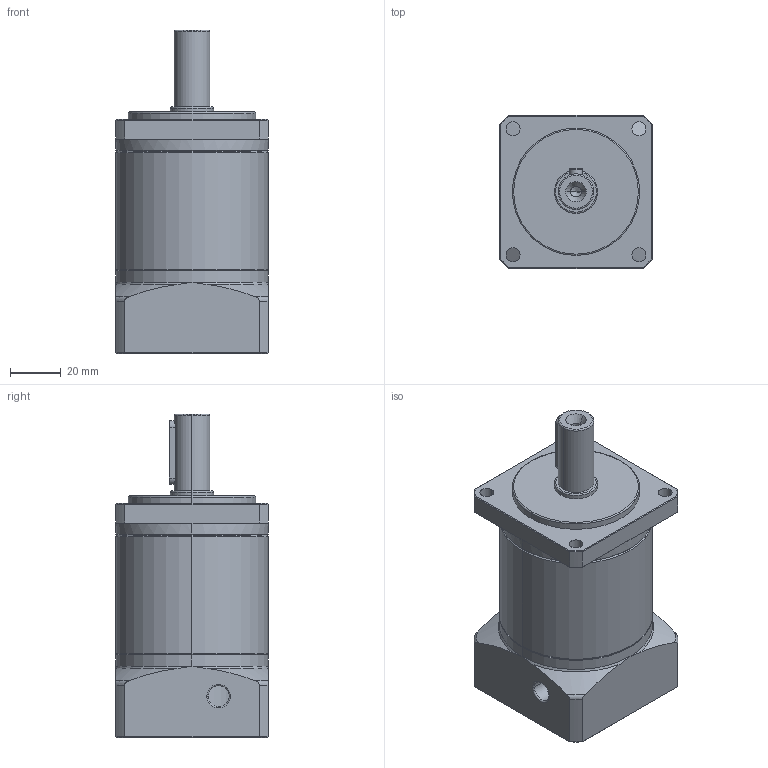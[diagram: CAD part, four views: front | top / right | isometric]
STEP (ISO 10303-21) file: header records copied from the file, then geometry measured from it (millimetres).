
FILE_DESCRIPTION (( 'STEP AP214' ), '1' );
FILE_NAME ('6.0035 pf60-20-14x30-50-70m4.STEP', '2026-02-13T07:30:44', ( '' ), ( '' ), 'SwSTEP 2.0', 'SolidWorks 2025', '' );
FILE_SCHEMA (( 'AUTOMOTIVE_DESIGN' ));
Length unit declared in the file: millimetre
Products named in the file (1): 6.0035 pf60-20-14x30-50-70m4
Bounding box: 60 x 60 x 127 mm (x, y, z)
Volume: 261580.3 mm3; surface area: 38574.2 mm2
Topology: 2 solids, 2 shells, 214 faces, 497 edges, 291 vertices
Faces by surface type: cylinder 69, plane 61, cone 57, torus 27
Entity records: 9710 total; most frequent: CARTESIAN_POINT 2481, DIRECTION 1066, ORIENTED_EDGE 970, EDGE_CURVE 485, AXIS2_PLACEMENT_3D 440, VERTEX_POINT 291, EDGE_LOOP 246, CIRCLE 225
